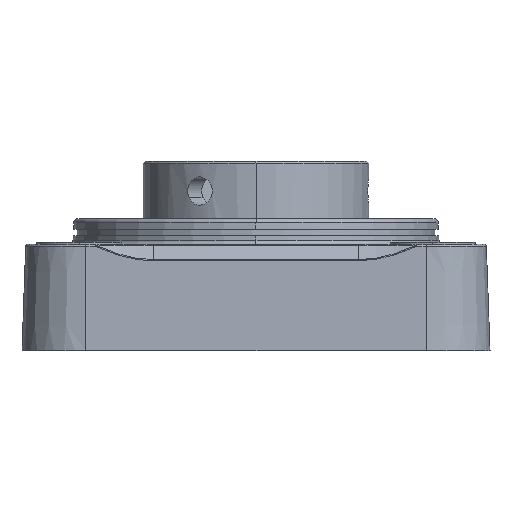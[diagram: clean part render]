
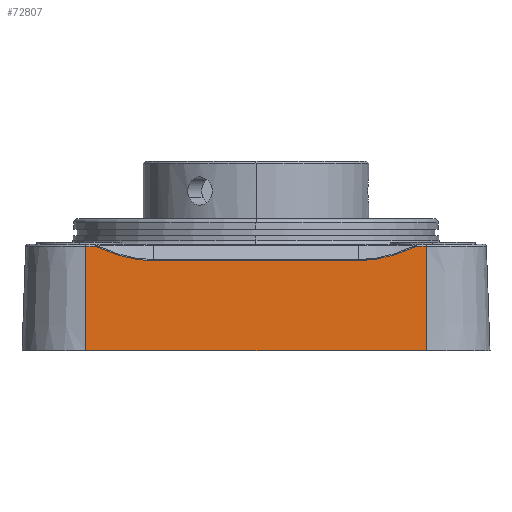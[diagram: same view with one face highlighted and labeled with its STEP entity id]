
A CAD part, left-side view. The second image highlights one B-rep face of the part: STEP entity #72807.
In plain terms, the highlighted planar face has unit normal (-0.999, 0, 0.035).
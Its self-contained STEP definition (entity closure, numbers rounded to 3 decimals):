
#927=CARTESIAN_POINT('Vertex',(-54.109,-40.,25.517)) ;
#974=CARTESIAN_POINT('Vertex',(-54.109,40.,25.517)) ;
#3038=CARTESIAN_POINT('Line Origine',(-54.109,0.,25.517)) ;
#3042=CARTESIAN_POINT('Vertex',(-54.109,-37.693,25.517)) ;
#3128=CARTESIAN_POINT('Line Origine',(-54.109,0.241,25.517)) ;
#3132=CARTESIAN_POINT('Vertex',(-54.109,37.693,25.517)) ;
#3306=CARTESIAN_POINT('Vertex',(-54.125,-36.514,25.066)) ;
#3310=CARTESIAN_POINT('Control Point',(-54.109,-37.693,25.517)) ;
#3311=CARTESIAN_POINT('Control Point',(-54.109,-37.659,25.507)) ;
#3312=CARTESIAN_POINT('Control Point',(-54.11,-37.626,25.497)) ;
#3313=CARTESIAN_POINT('Control Point',(-54.11,-37.593,25.486)) ;
#3314=CARTESIAN_POINT('Control Point',(-54.113,-37.354,25.409)) ;
#3315=CARTESIAN_POINT('Control Point',(-54.116,-37.117,25.323)) ;
#3316=CARTESIAN_POINT('Control Point',(-54.119,-36.914,25.243)) ;
#3317=CARTESIAN_POINT('Control Point',(-54.121,-36.713,25.157)) ;
#3318=CARTESIAN_POINT('Control Point',(-54.125,-36.514,25.066)) ;
#3369=CARTESIAN_POINT('Vertex',(-54.225,-24.114,22.188)) ;
#3373=CARTESIAN_POINT('Control Point',(-54.225,-24.114,22.188)) ;
#3374=CARTESIAN_POINT('Control Point',(-54.225,-25.361,22.188)) ;
#3375=CARTESIAN_POINT('Control Point',(-54.223,-26.608,22.262)) ;
#3376=CARTESIAN_POINT('Control Point',(-54.217,-27.85,22.411)) ;
#3377=CARTESIAN_POINT('Control Point',(-54.202,-30.373,22.859)) ;
#3378=CARTESIAN_POINT('Control Point',(-54.176,-32.842,23.584)) ;
#3379=CARTESIAN_POINT('Control Point',(-54.161,-34.086,24.021)) ;
#3380=CARTESIAN_POINT('Control Point',(-54.144,-35.311,24.517)) ;
#3381=CARTESIAN_POINT('Control Point',(-54.125,-36.514,25.066)) ;
#3399=CARTESIAN_POINT('Vertex',(-54.225,24.114,22.188)) ;
#3402=CARTESIAN_POINT('Line Origine',(-54.225,0.,22.188)) ;
#3456=CARTESIAN_POINT('Vertex',(-54.125,36.514,25.066)) ;
#3460=CARTESIAN_POINT('Control Point',(-54.125,36.514,25.066)) ;
#3461=CARTESIAN_POINT('Control Point',(-54.131,36.142,24.897)) ;
#3462=CARTESIAN_POINT('Control Point',(-54.136,35.768,24.732)) ;
#3463=CARTESIAN_POINT('Control Point',(-54.142,35.392,24.573)) ;
#3464=CARTESIAN_POINT('Control Point',(-54.171,33.361,23.745)) ;
#3465=CARTESIAN_POINT('Control Point',(-54.194,31.275,23.079)) ;
#3466=CARTESIAN_POINT('Control Point',(-54.209,29.545,22.662)) ;
#3467=CARTESIAN_POINT('Control Point',(-54.22,27.411,22.327)) ;
#3468=CARTESIAN_POINT('Control Point',(-54.224,25.264,22.209)) ;
#3469=CARTESIAN_POINT('Control Point',(-54.225,24.881,22.195)) ;
#3470=CARTESIAN_POINT('Control Point',(-54.225,24.497,22.188)) ;
#3471=CARTESIAN_POINT('Control Point',(-54.225,24.114,22.188)) ;
#3524=CARTESIAN_POINT('Control Point',(-54.125,36.514,25.066)) ;
#3525=CARTESIAN_POINT('Control Point',(-54.121,36.746,25.172)) ;
#3526=CARTESIAN_POINT('Control Point',(-54.118,36.98,25.27)) ;
#3527=CARTESIAN_POINT('Control Point',(-54.114,37.215,25.361)) ;
#3528=CARTESIAN_POINT('Control Point',(-54.111,37.453,25.444)) ;
#3529=CARTESIAN_POINT('Control Point',(-54.109,37.693,25.517)) ;
#72771=CARTESIAN_POINT('Axis2P3D Location',(-55.,0.,0.)) ;
#72776=CARTESIAN_POINT('Line Origine',(-54.965,0.,1.)) ;
#72780=CARTESIAN_POINT('Vertex',(-54.965,40.,1.)) ;
#72782=CARTESIAN_POINT('Vertex',(-54.965,-40.,1.)) ;
#72785=CARTESIAN_POINT('Line Origine',(-54.546,-40.,13.)) ;
#72790=CARTESIAN_POINT('Line Origine',(-54.546,40.,13.)) ;
#3039=DIRECTION('Vector Direction',(0.,-1.,0.)) ;
#3129=DIRECTION('Vector Direction',(0.,-1.,0.)) ;
#3403=DIRECTION('Vector Direction',(0.,1.,0.)) ;
#72772=DIRECTION('Axis2P3D Direction',(0.999,0.,-0.035)) ;
#72773=DIRECTION('Axis2P3D XDirection',(0.,-1.,0.)) ;
#72777=DIRECTION('Vector Direction',(0.,-1.,0.)) ;
#72786=DIRECTION('Vector Direction',(-0.035,0.,-0.999)) ;
#72791=DIRECTION('Vector Direction',(-0.035,0.,-0.999)) ;
#72774=AXIS2_PLACEMENT_3D('Plane Axis2P3D',#72771,#72772,#72773) ;
#72796=ORIENTED_EDGE('',*,*,#72784,.T.) ;
#72797=ORIENTED_EDGE('',*,*,#72789,.T.) ;
#72798=ORIENTED_EDGE('',*,*,#3044,.F.) ;
#72799=ORIENTED_EDGE('',*,*,#3319,.T.) ;
#72800=ORIENTED_EDGE('',*,*,#3382,.T.) ;
#72801=ORIENTED_EDGE('',*,*,#3406,.T.) ;
#72802=ORIENTED_EDGE('',*,*,#3472,.T.) ;
#72803=ORIENTED_EDGE('',*,*,#3530,.T.) ;
#72804=ORIENTED_EDGE('',*,*,#3134,.F.) ;
#72805=ORIENTED_EDGE('',*,*,#72794,.F.) ;
#3040=VECTOR('Line Direction',#3039,1.) ;
#3130=VECTOR('Line Direction',#3129,1.) ;
#3404=VECTOR('Line Direction',#3403,1.) ;
#72778=VECTOR('Line Direction',#72777,1.) ;
#72787=VECTOR('Line Direction',#72786,1.) ;
#72792=VECTOR('Line Direction',#72791,1.) ;
#72807=ADVANCED_FACE('PartBody',(#72806),#72775,.F.) ;
#3309=B_SPLINE_CURVE_WITH_KNOTS('',5,(#3310,#3311,#3312,#3313,#3314,#3315,#3316,#3317,#3318),.UNSPECIFIED.,.F.,.U.,(6,3,6),(34.136,34.398,36.014),.UNSPECIFIED.) ;
#3372=B_SPLINE_CURVE_WITH_KNOTS('',5,(#3373,#3374,#3375,#3376,#3377,#3378,#3379,#3380,#3381),.UNSPECIFIED.,.F.,.U.,(6,3,6),(33.015,41.849,51.092),.UNSPECIFIED.) ;
#3459=B_SPLINE_CURVE_WITH_KNOTS('',5,(#3460,#3461,#3462,#3463,#3464,#3465,#3466,#3467,#3468,#3469,#3470,#3471),.UNSPECIFIED.,.F.,.U.,(6,3,3,6),(14.936,17.794,30.298,33.013),.UNSPECIFIED.) ;
#3523=B_SPLINE_CURVE_WITH_KNOTS('',5,(#3524,#3525,#3526,#3527,#3528,#3529),.UNSPECIFIED.,.F.,.U.,(6,6),(54.86,56.739),.UNSPECIFIED.) ;
#3044=EDGE_CURVE('',#3043,#928,#3041,.T.) ;
#3134=EDGE_CURVE('',#975,#3133,#3131,.T.) ;
#3319=EDGE_CURVE('',#3043,#3307,#3309,.T.) ;
#3382=EDGE_CURVE('',#3307,#3370,#3372,.F.) ;
#3406=EDGE_CURVE('',#3370,#3400,#3405,.T.) ;
#3472=EDGE_CURVE('',#3400,#3457,#3459,.F.) ;
#3530=EDGE_CURVE('',#3457,#3133,#3523,.T.) ;
#72784=EDGE_CURVE('',#72781,#72783,#72779,.T.) ;
#72789=EDGE_CURVE('',#72783,#928,#72788,.F.) ;
#72794=EDGE_CURVE('',#72781,#975,#72793,.F.) ;
#72795=EDGE_LOOP('',(#72796,#72797,#72798,#72799,#72800,#72801,#72802,#72803,#72804,#72805)) ;
#72806=FACE_OUTER_BOUND('',#72795,.T.) ;
#3041=LINE('Line',#3038,#3040) ;
#3131=LINE('Line',#3128,#3130) ;
#3405=LINE('Line',#3402,#3404) ;
#72779=LINE('Line',#72776,#72778) ;
#72788=LINE('Line',#72785,#72787) ;
#72793=LINE('Line',#72790,#72792) ;
#72775=PLANE('',#72774) ;
#928=VERTEX_POINT('',#927) ;
#975=VERTEX_POINT('',#974) ;
#3043=VERTEX_POINT('',#3042) ;
#3133=VERTEX_POINT('',#3132) ;
#3307=VERTEX_POINT('',#3306) ;
#3370=VERTEX_POINT('',#3369) ;
#3400=VERTEX_POINT('',#3399) ;
#3457=VERTEX_POINT('',#3456) ;
#72781=VERTEX_POINT('',#72780) ;
#72783=VERTEX_POINT('',#72782) ;
